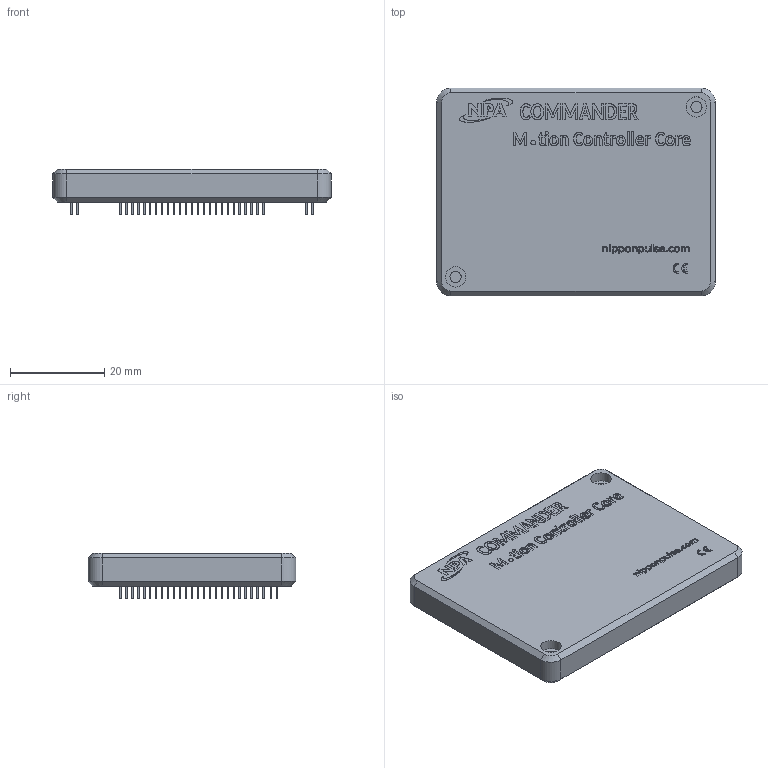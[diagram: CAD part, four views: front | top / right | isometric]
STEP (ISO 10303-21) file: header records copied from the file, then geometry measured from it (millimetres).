
FILE_DESCRIPTION(('Open CASCADE Model'),'2;1');
FILE_NAME('Open CASCADE Shape Model','2026-10-16T16:42:50',('Author'),( 'Open CASCADE'),'Open CASCADE STEP processor 8.0','Open CASCADE 8.0' ,'Unknown');
FILE_SCHEMA(('AUTOMOTIVE_DESIGN { 1 0 10303 214 1 1 1 1 }'));
Length unit declared in the file: millimetre
Products named in the file (8): CMD-8CR_Motion_Controller_Core_GEN5; Cover; Base_Plate; LED_Green; PCB; Connector_2x25_1.27mm; CON_Insulator; CON_Pin
Assembly tree (59 placements, depth 3):
  CMD-8CR_Motion_Controller_Core_GEN5
    Cover
    Base_Plate
    LED_Green
    PCB
    Connector_2x25_1.27mm  x4
      CON_Insulator
      CON_Pin
Bounding box: 59 x 44 x 9.7 mm (x, y, z)
Volume: 10891.2 mm3; surface area: 19613.5 mm2
Topology: 208 solids, 208 shells, 2680 faces, 5739 edges, 3548 vertices
Faces by surface type: plane 2469, extrusion 135, cylinder 64, cone 12
Full cylindrical faces by diameter (mm): 1 x2, 1.25 x2, 1.8 x2, 2.4 x4, 4.3 x2
Entity records: 30082 total; most frequent: CARTESIAN_POINT 13165, ORIENTED_EDGE 3442, DIRECTION 2922, EDGE_CURVE 1721, VECTOR 1444, LINE 1309, VERTEX_POINT 1136, FACE_BOUND 769
